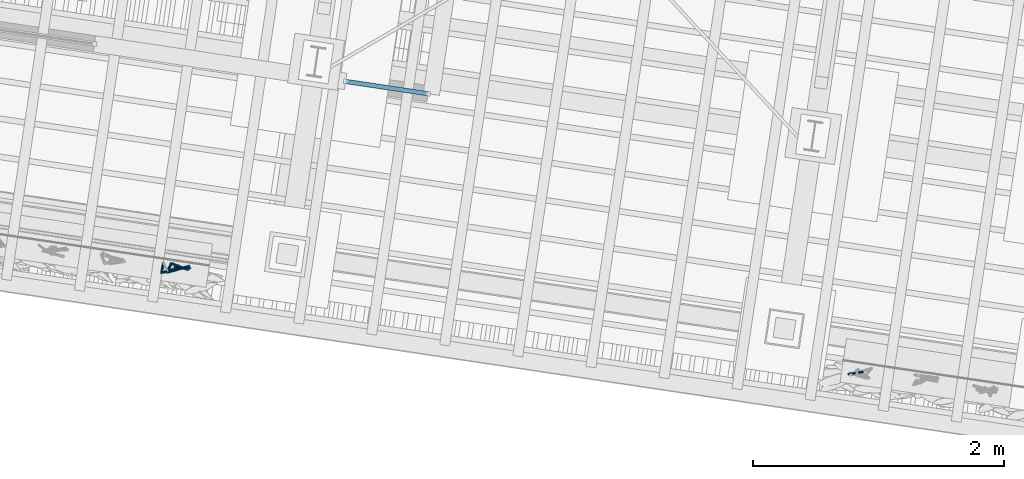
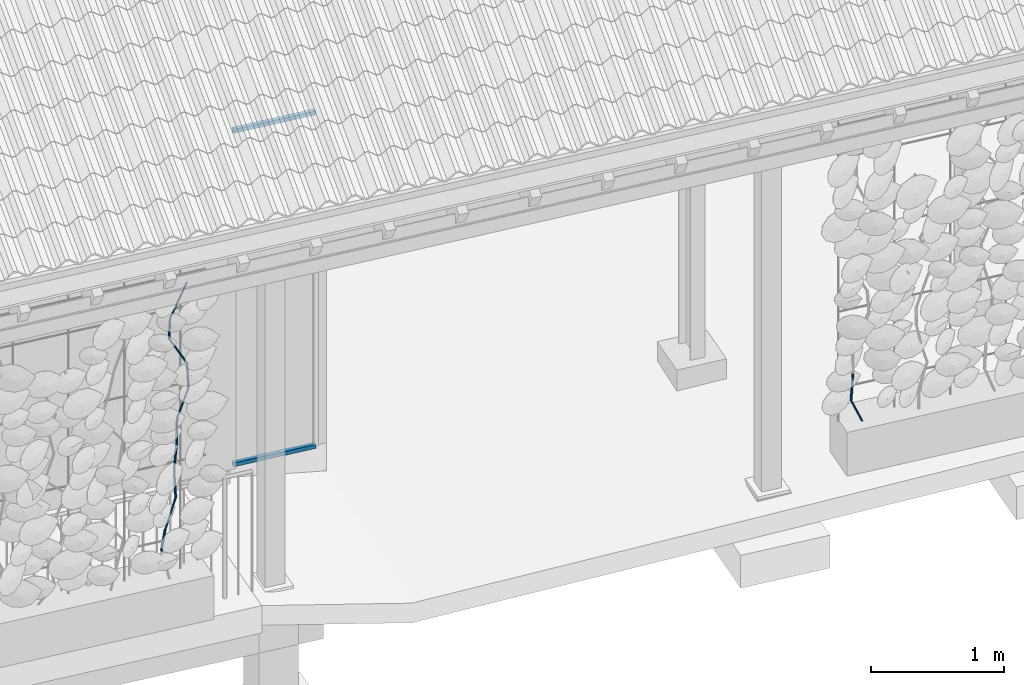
# One storey, part 117 of 131: 14 members, 1 element without a shape of its own.
"""IFC4 building model written with IfcOpenShell, lengths in metres."""

from ifc_helpers import new_model, si_unit, direction, frame, origin_with_axes, place, context, subcontext, project, spatial, rectangle, circle, extrude, material, material_profile, profile_set, profile_usage, type_object, element, aggregate, save


model = new_model("IFC4")

# Units and contexts
model_context = context("Model", 3, precision=1e-05, world=origin_with_axes(), true_north=direction((0.0, 1.0)))
body_context = subcontext(model_context, "Body", "Model", "MODEL_VIEW")
ifc_project = project(units=[si_unit("AREAUNIT", "SQUARE_METRE"), si_unit("VOLUMEUNIT", "CUBIC_METRE"), si_unit("LENGTHUNIT", "METRE")], contexts=[model_context])

# Site, building, storey
site_placement = place(None, origin_with_axes())
site = spatial("IfcSite", under=ifc_project, at=site_placement, Name="Lares · Rua das Mercês · artigo 4771")
building_placement = place(site_placement, frame((15.0, 9.7, 14.65), z_axis=(0.0, 0.0, 1.0), x_axis=(0.989015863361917, -0.147809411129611, 0.0)))
building = spatial("IfcBuilding", under=site, at=building_placement, Name="Casa Sobreposta")
storey_placement = place(building_placement, origin_with_axes())
storey = spatial("IfcBuildingStorey", under=building, at=storey_placement, Name="00 · Habitação e estacionamento", Elevation=14.65)

# Members
ifc_material_1 = material(Name="Aço pintado / Stahl lackiert", Category="steel")
ifc_material_profile_1 = material_profile(ifc_material_1, rectangle(XDim=0.035, YDim=0.035))
ifc_profile_set_1 = profile_set([ifc_material_profile_1], Name="R0.035")
ifc_profile_usage_1 = profile_usage(ifc_profile_set_1)
member_type_1 = type_object("IfcMemberType", Name="R0.035 / steel", PredefinedType="NOTDEFINED", material=ifc_profile_set_1)
member_1_placement = place(storey_placement, frame((24.256, 0.0, 0.0), z_axis=(1.0, 0.0, 0.0), x_axis=(0.0, -1.0, 0.0)))
element("IfcMember", 1, at=member_1_placement, inside=storey, type_object=member_type_1, material=ifc_profile_usage_1, Name="Folha de correr sul 12 · travessa", context=body_context, shape_type="SweptSolid", body=[
    extrude(rectangle(XDim=0.035, YDim=0.035), origin_with_axes(), (0.0, 0.0, 1.0), 0.664000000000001),
])
ifc_profile_usage_2 = profile_usage(ifc_profile_set_1)
member_2_placement = place(storey_placement, frame((24.256, 0.0, 3.05), z_axis=(1.0, 0.0, 0.0), x_axis=(0.0, -1.0, 0.0)))
element("IfcMember", 2, at=member_2_placement, inside=storey, type_object=member_type_1, material=ifc_profile_usage_2, Name="Folha de correr sul 12 · travessa", context=body_context, shape_type="SweptSolid", body=[
    extrude(rectangle(XDim=0.035, YDim=0.035), origin_with_axes(), (0.0, 0.0, 1.0), 0.664000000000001),
])

# Assembly, members
assembly_placement = place(storey_placement, origin_with_axes())
assembly = element("IfcElementAssembly", 3, at=assembly_placement, inside=storey, Name="Fachada sul e pátio · estrutura e trepadeiras", ObjectType="LIVING_SHADE_TRELLIS", PredefinedType="USERDEFINED")
ifc_material_2 = material(Name="Ramos de trepadeiras", Category="wood")
ifc_material_profile_2 = material_profile(ifc_material_2, circle(Radius=0.0075))
ifc_profile_set_2 = profile_set([ifc_material_profile_2], Name="D0.015")
ifc_profile_usage_3 = profile_usage(ifc_profile_set_2)
member_type_2 = type_object("IfcMemberType", Name="D0.015 / vine_wood", PredefinedType="NOTDEFINED", material=ifc_profile_set_2)
member_3_placement = place(assembly_placement, frame((23.0345548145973, -1.64407805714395, 0.589963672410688), z_axis=(-0.0113902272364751, -0.310696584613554, 0.950440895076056), x_axis=(-0.99932868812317, 0.0366356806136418, 0.0)))
member_3 = element("IfcMember", 4, at=member_3_placement, type_object=member_type_2, material=ifc_profile_usage_3, Name="Trepadeiras · ramo", context=body_context, shape_type="SweptSolid", body=[
    extrude(circle(Radius=0.0075), origin_with_axes(), (0.0, 0.0, 1.0), 0.252476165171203),
])
ifc_profile_usage_4 = profile_usage(ifc_profile_set_2)
member_4_placement = place(assembly_placement, frame((23.0316790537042, -1.72252153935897, 0.829927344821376), z_axis=(0.395049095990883, 0.184528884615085, 0.899936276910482), x_axis=(0.423210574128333, -0.906031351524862, 0.0)))
member_4 = element("IfcMember", 5, at=member_4_placement, type_object=member_type_2, material=ifc_profile_usage_4, Name="Trepadeiras · ramo", context=body_context, shape_type="SweptSolid", body=[
    extrude(circle(Radius=0.0075), origin_with_axes(), (0.0, 0.0, 1.0), 0.266645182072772),
])
ifc_profile_usage_5 = profile_usage(ifc_profile_set_2)
member_5_placement = place(assembly_placement, frame((23.1370169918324, -1.6733178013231, 1.06989101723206), z_axis=(-0.0227986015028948, 0.0880694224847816, 0.995853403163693), x_axis=(0.968088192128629, 0.250609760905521, 0.0)))
member_5 = element("IfcMember", 6, at=member_5_placement, type_object=member_type_2, material=ifc_profile_usage_5, Name="Trepadeiras · ramo", context=body_context, shape_type="SweptSolid", body=[
    extrude(circle(Radius=0.0075), origin_with_axes(), (0.0, 0.0, 1.0), 0.240962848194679),
])
ifc_profile_usage_6 = profile_usage(ifc_profile_set_2)
member_6_placement = place(assembly_placement, frame((23.1315233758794, -1.6520963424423, 1.30985468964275), z_axis=(0.0992382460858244, 0.0185059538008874, 0.994891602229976), x_axis=(0.183319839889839, -0.983053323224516, 0.0)))
member_6 = element("IfcMember", 7, at=member_6_placement, type_object=member_type_2, material=ifc_profile_usage_6, Name="Trepadeiras · ramo", context=body_context, shape_type="SweptSolid", body=[
    extrude(circle(Radius=0.0075), origin_with_axes(), (0.0, 0.0, 1.0), 0.241195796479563),
])
ifc_profile_usage_7 = profile_usage(ifc_profile_set_2)
member_7_placement = place(assembly_placement, frame((23.1554592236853, -1.64763278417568, 1.54981836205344), z_axis=(-0.028342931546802, -0.0953151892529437, 0.995043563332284), x_axis=(-0.958519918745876, 0.28502555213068, 0.0)))
member_7 = element("IfcMember", 8, at=member_7_placement, type_object=member_type_2, material=ifc_profile_usage_7, Name="Trepadeiras · ramo", context=body_context, shape_type="SweptSolid", body=[
    extrude(circle(Radius=0.0075), origin_with_axes(), (0.0, 0.0, 1.0), 0.241158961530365),
])
ifc_profile_usage_8 = profile_usage(ifc_profile_set_2)
member_8_placement = place(assembly_placement, frame((23.1486240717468, -1.67061889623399, 1.78978203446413), z_axis=(0.381961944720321, 0.0718600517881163, 0.92138005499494), x_axis=(0.184890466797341, -0.982759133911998, 0.0)))
member_8 = element("IfcMember", 9, at=member_8_placement, type_object=member_type_2, material=ifc_profile_usage_8, Name="Trepadeiras · ramo", context=body_context, shape_type="SweptSolid", body=[
    extrude(circle(Radius=0.0075), origin_with_axes(), (0.0, 0.0, 1.0), 0.260439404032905),
])
ifc_profile_usage_9 = profile_usage(ifc_profile_set_2)
member_9_placement = place(assembly_placement, frame((23.248102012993, -1.65190370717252, 2.02974570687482), z_axis=(-0.0703236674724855, -0.0624431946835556, 0.995567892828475), x_axis=(-0.663967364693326, 0.74776155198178, 0.0)))
member_9 = element("IfcMember", 10, at=member_9_placement, type_object=member_type_2, material=ifc_profile_usage_9, Name="Trepadeiras · ramo", context=body_context, shape_type="SweptSolid", body=[
    extrude(circle(Radius=0.0075), origin_with_axes(), (0.0, 0.0, 1.0), 0.241031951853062),
])
ifc_profile_usage_10 = profile_usage(ifc_profile_set_2)
member_10_placement = place(assembly_placement, frame((23.2311517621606, -1.66695451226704, 2.2697093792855), z_axis=(-0.484541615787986, 0.107113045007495, 0.868185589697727), x_axis=(0.215849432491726, 0.976426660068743, 0.0)))
member_10 = element("IfcMember", 11, at=member_10_placement, type_object=member_type_2, material=ifc_profile_usage_10, Name="Trepadeiras · ramo", context=body_context, shape_type="SweptSolid", body=[
    extrude(circle(Radius=0.0075), origin_with_axes(), (0.0, 0.0, 1.0), 0.27639674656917),
])
ifc_profile_usage_11 = profile_usage(ifc_profile_set_2)
member_11_placement = place(assembly_placement, frame((23.0972260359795, -1.63734881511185, 2.50967305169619), z_axis=(-0.0844863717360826, -0.300328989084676, 0.950086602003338), x_axis=(-0.96263519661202, 0.270801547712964, 0.0)))
member_11 = element("IfcMember", 12, at=member_11_placement, type_object=member_type_2, material=ifc_profile_usage_11, Name="Trepadeiras · ramo", context=body_context, shape_type="SweptSolid", body=[
    extrude(circle(Radius=0.0075), origin_with_axes(), (0.0, 0.0, 1.0), 0.252570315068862),
])
ifc_profile_usage_12 = profile_usage(ifc_profile_set_2)
member_12_placement = place(assembly_placement, frame((23.0758872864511, -1.71320300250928, 2.74963672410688), z_axis=(0.549972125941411, 0.25083623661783, 0.796625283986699), x_axis=(0.414966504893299, -0.909836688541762, 0.0)))
member_12 = element("IfcMember", 13, at=member_12_placement, type_object=member_type_2, material=ifc_profile_usage_12, Name="Trepadeiras · ramo", context=body_context, shape_type="SweptSolid", body=[
    extrude(circle(Radius=0.0075), origin_with_axes(), (0.0, 0.0, 1.0), 0.301225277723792),
])
ifc_profile_usage_13 = profile_usage(ifc_profile_set_2)
member_13_placement = place(assembly_placement, frame((28.6654728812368, -1.6786196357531, 0.35), z_axis=(-0.396851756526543, -0.12315337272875, 0.909583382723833), x_axis=(-0.2963827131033, 0.95506925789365, -1.51893547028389e-17)))
member_13 = element("IfcMember", 14, at=member_13_placement, type_object=member_type_2, material=ifc_profile_usage_13, Name="Trepadeiras · ramo", context=body_context, shape_type="SweptSolid", body=[
    extrude(circle(Radius=0.0075), origin_with_axes(), (0.0, 0.0, 1.0), 0.265459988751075),
])
ifc_profile_usage_14 = profile_usage(ifc_profile_set_2)
member_14_placement = place(assembly_placement, frame((28.5601246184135, -1.71131192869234, 0.591457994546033), z_axis=(0.0614256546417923, -0.00943117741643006, 0.998067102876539), x_axis=(-0.1517597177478, -0.988417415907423, 0.0)))
member_14 = element("IfcMember", 15, at=member_14_placement, type_object=member_type_2, material=ifc_profile_usage_14, Name="Trepadeiras · ramo", context=body_context, shape_type="SweptSolid", body=[
    extrude(circle(Radius=0.0075), origin_with_axes(), (0.0, 0.0, 1.0), 0.241925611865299),
])
aggregate(assembly, [member_3, member_4, member_5, member_6, member_7, member_8, member_9, member_10, member_11, member_12, member_13, member_14])

save(model, "model.ifc")
